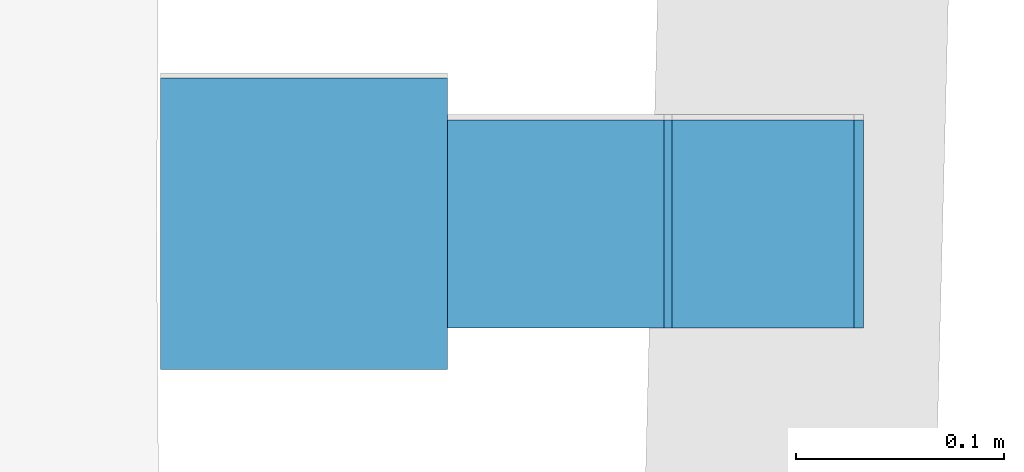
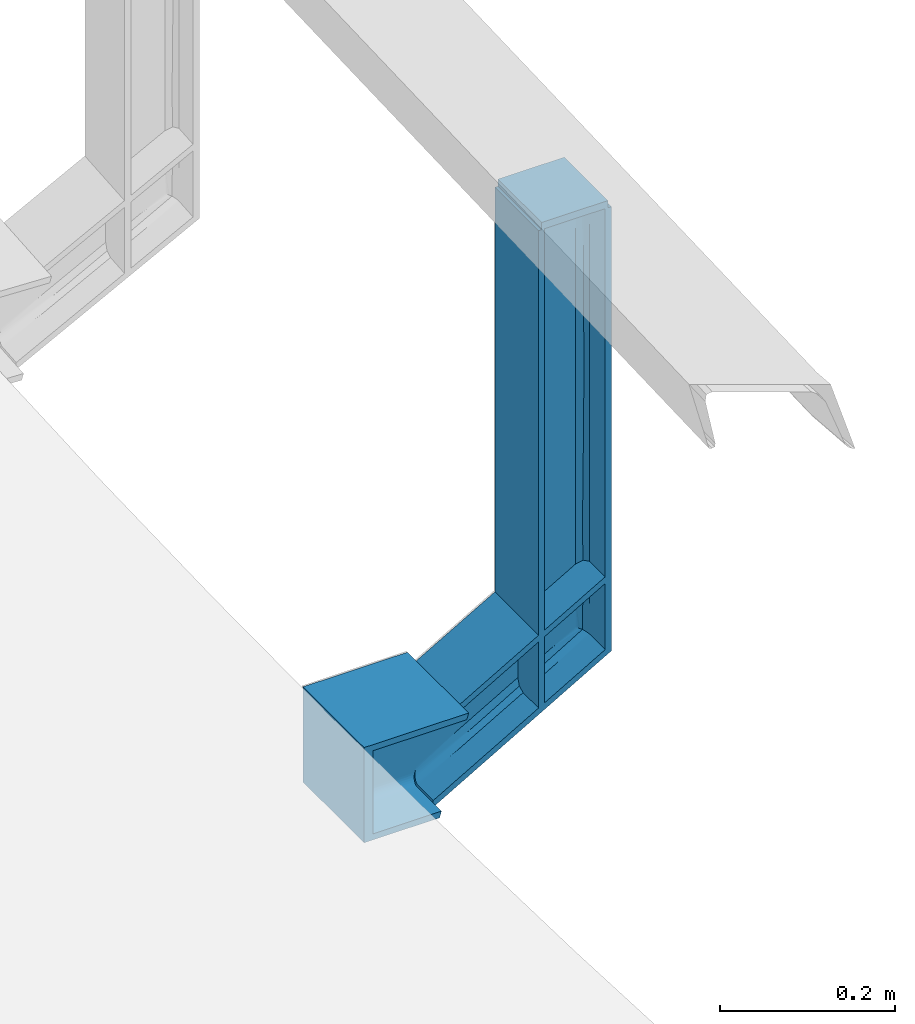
# One storey, part 40 of 68: 1 beam.
"""IFC2X3 building model written with IfcOpenShell, lengths in millimetres."""

from ifc_helpers import new_model, entity, si_unit, converted_unit, derived_unit, direction, frame, origin, place, context, subcontext, project, spatial, faceted_brep, source, transform, mapped, material, type_object, type_shapes, element, save


model = new_model("IFC2X3")

# Units and contexts
model_context = context("Model", 3, precision=0.01, world=origin(), true_north=direction((6.12303176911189e-17, 1.0)))
body_context = subcontext(model_context, "Body", "Model", "MODEL_VIEW")
ifc_project = project(units=[si_unit("LENGTHUNIT", "METRE", prefix="MILLI"), si_unit("AREAUNIT", "SQUARE_METRE", prefix="MILLI"), si_unit("VOLUMEUNIT", "CUBIC_METRE"), converted_unit("PLANEANGLEUNIT", "DEGREE", entity("IfcRatioMeasure", 0.0174532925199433), si_unit("PLANEANGLEUNIT", "RADIAN"), dimensions=[0, 0, 0, 0, 0, 0, 0]), si_unit("MASSUNIT", "GRAM", prefix="KILO"), derived_unit("MASSDENSITYUNIT", [(si_unit("MASSUNIT", "GRAM", prefix="KILO"), 1), (si_unit("LENGTHUNIT", "METRE"), -3)]), derived_unit("MOMENTOFINERTIAUNIT", [(si_unit("LENGTHUNIT", "METRE"), 4)]), si_unit("TIMEUNIT", "SECOND"), si_unit("FREQUENCYUNIT", "HERTZ"), si_unit("THERMODYNAMICTEMPERATUREUNIT", "DEGREE_CELSIUS"), derived_unit("THERMALTRANSMITTANCEUNIT", [(si_unit("MASSUNIT", "GRAM", prefix="KILO"), 1), (si_unit("THERMODYNAMICTEMPERATUREUNIT", "KELVIN"), -1), (si_unit("TIMEUNIT", "SECOND"), -3)]), derived_unit("VOLUMETRICFLOWRATEUNIT", [(si_unit("LENGTHUNIT", "METRE"), 3), (si_unit("TIMEUNIT", "SECOND"), -1)]), si_unit("ELECTRICCURRENTUNIT", "AMPERE"), si_unit("ELECTRICVOLTAGEUNIT", "VOLT"), si_unit("POWERUNIT", "WATT"), si_unit("FORCEUNIT", "NEWTON", prefix="KILO"), si_unit("ILLUMINANCEUNIT", "LUX"), si_unit("LUMINOUSFLUXUNIT", "LUMEN"), si_unit("LUMINOUSINTENSITYUNIT", "CANDELA"), derived_unit("USERDEFINED", [(si_unit("MASSUNIT", "GRAM", prefix="KILO"), -1), (si_unit("LENGTHUNIT", "METRE"), -2), (si_unit("TIMEUNIT", "SECOND"), 3), (si_unit("LUMINOUSFLUXUNIT", "LUMEN"), 1)]), derived_unit("LINEARVELOCITYUNIT", [(si_unit("LENGTHUNIT", "METRE"), 1), (si_unit("TIMEUNIT", "SECOND"), -1)]), si_unit("PRESSUREUNIT", "PASCAL"), derived_unit("USERDEFINED", [(si_unit("LENGTHUNIT", "METRE"), -2), (si_unit("MASSUNIT", "GRAM", prefix="KILO"), 1), (si_unit("TIMEUNIT", "SECOND"), -2)]), derived_unit("LINEARFORCEUNIT", [(si_unit("MASSUNIT", "GRAM", prefix="KILO"), 1), (si_unit("LENGTHUNIT", "METRE"), 1), (si_unit("TIMEUNIT", "SECOND"), -2), (si_unit("LENGTHUNIT", "METRE"), -1)]), derived_unit("PLANARFORCEUNIT", [(si_unit("MASSUNIT", "GRAM", prefix="KILO"), 1), (si_unit("LENGTHUNIT", "METRE"), 1), (si_unit("TIMEUNIT", "SECOND"), -2), (si_unit("LENGTHUNIT", "METRE"), -2)])], contexts=[model_context])

# Site, building, storey
site_placement = place(None, origin())
site = spatial("IfcSite", under=ifc_project, at=site_placement, Name="Theater aan de Parade", CompositionType="ELEMENT")
building_placement = place(site_placement, origin())
building = spatial("IfcBuilding", under=site, at=building_placement, Name="Theater aan de Parade", CompositionType="ELEMENT")
storey_placement = place(building_placement, frame((0.0, 0.0, 8750.0)))
storey = spatial("IfcBuildingStorey", under=building, at=storey_placement, Name="02 tweede verdieping", CompositionType="ELEMENT", Elevation=8750.0)

# Beam
ifc_material = material(Name="00_PBT_MAT_staal_S355")
beam_type = type_object("IfcBeamType", Name="28_PBT_SF_staal_baluster balkon:baluster HEA100", PredefinedType="BEAM", material=ifc_material)
shared_shape = source(origin(), body_context, "Body", "Brep", [
    faceted_brep([(50.0, -43.537813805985, 625.0), (50.0, 44.0, 625.0), (50.0, 44.0, 635.0), (50.0, -43.537813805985, 635.0), (-50.0, -43.537813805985, 625.0), (-50.0, -43.537813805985, 635.0), (-50.0, 44.0, 635.0), (-50.0, 44.0, 625.0)], [[[0, 1, 2, 3]], [[4, 5, 6, 7]], [[1, 0, 4, 7]], [[2, 1, 7, 6]], [[3, 2, 6, 5]], [[0, 3, 5, 4]]]),
    faceted_brep([(70.0, 278.0, -133.0), (70.0, 290.0, -133.0), (70.0, 290.0, 0.0), (70.0, 278.0, 0.0), (-70.0, 278.0, -133.0), (-70.0, 278.0, 0.0), (-70.0, 290.0, 0.0), (-70.0, 290.0, -133.0)], [[[0, 1, 2, 3]], [[4, 5, 6, 7]], [[1, 0, 4, 7]], [[2, 1, 7, 6]], [[3, 2, 6, 5]], [[0, 3, 5, 4]]]),
    faceted_brep([(14.7499999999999, 278.0, -124.5), (70.0, 278.0, -124.5), (70.0, 278.0, -133.0), (-70.0, 278.0, -133.0), (-70.0, 278.0, -124.500000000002), (-14.7500000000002, 278.0, -124.500000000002), (-11.6441714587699, 278.0, -124.091109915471), (-8.75000000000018, 278.0, -122.892304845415), (-6.26471862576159, 278.0, -120.98528137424), (-4.3576951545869, 278.0, -118.500000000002), (-3.15889008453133, 278.0, -115.605828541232), (-2.75000000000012, 278.0, -112.500000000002), (-2.75000000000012, 278.0, -20.500000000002), (-3.15889008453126, 278.0, -17.3941714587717), (-4.35769515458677, 278.0, -14.500000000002), (-6.26471862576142, 278.0, -12.0147186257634), (-8.74999999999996, 278.0, -10.1076951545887), (-11.6441714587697, 278.0, -8.90889008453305), (-14.7500000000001, 278.0, -8.50000000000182), (-70.0, 278.0, -8.50000000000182), (-70.0, 278.0, 0.0), (70.0, 278.0, 0.0), (70.0, 278.0, -8.50000000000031), (14.7499999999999, 278.0, -8.50000000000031), (11.6441714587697, 278.0, -8.90889008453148), (8.74999999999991, 278.0, -10.107695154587), (6.26471862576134, 278.0, -12.0147186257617), (4.35769515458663, 278.0, -14.5000000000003), (3.15889008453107, 278.0, -17.39417145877), (2.74999999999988, 278.0, -20.5000000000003), (2.74999999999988, 278.0, -112.5), (3.15889008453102, 278.0, -115.60582854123), (4.35769515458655, 278.0, -118.5), (6.26471862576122, 278.0, -120.985281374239), (8.74999999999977, 278.0, -122.892304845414), (11.6441714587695, 278.0, -124.091109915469), (70.0, 151.923048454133, 0.0), (70.0, 154.37480362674, -8.50000000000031), (70.0, 187.834050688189, -124.5), (70.0, 190.285805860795, -133.0), (14.7499999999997, 154.37480362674, -8.50000000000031), (14.7499999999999, 214.85290376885, -8.50000000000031), (-14.7500000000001, 214.852897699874, -8.50000000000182), (-14.7500000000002, 154.37480362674, -8.50000000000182), (-70.0, 154.37480362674, -8.50000000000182), (6.43965673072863, 216.327371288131, -11.8433150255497), (2.74999999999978, 217.521900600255, -20.5000000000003), (12.079748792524, 154.461585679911, -8.8008650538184), (9.5433951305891, 154.717580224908, -9.68837358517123), (7.26812237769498, 155.129950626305, -11.1180222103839), (5.36802221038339, 155.678018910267, -13.0181223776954), (3.05086505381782, 157.065893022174, -17.8297487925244), (2.74999999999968, 157.83610504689, -20.5000000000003), (3.9383735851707, 156.334302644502, -15.2933951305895), (2.74999999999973, 184.372749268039, -112.5), (3.93837358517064, 185.874551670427, -117.706604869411), (3.05086505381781, 185.142961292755, -115.170251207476), (5.36802221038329, 186.530835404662, -119.981877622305), (7.26812237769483, 187.078903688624, -121.881977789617), (9.54339513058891, 187.491274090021, -123.311626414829), (12.0797487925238, 187.747268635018, -124.199134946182), (14.7499999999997, 187.834050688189, -124.5), (-70.0, 187.83405068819, -124.500000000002), (-14.7500000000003, 187.83405068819, -124.500000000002), (-70.0, 190.285805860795, -133.0), (-70.0, 151.923048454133, 0.0), (-9.54339513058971, 187.491274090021, -123.311626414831), (-12.0797487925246, 187.747268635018, -124.199134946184), (-7.2681223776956, 187.078903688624, -121.881977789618), (-5.36802221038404, 186.530835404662, -119.981877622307), (-3.93837358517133, 185.874551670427, -117.706604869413), (-3.05086505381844, 185.142961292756, -115.170251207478), (-2.75000000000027, 184.37274926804, -112.500000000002), (-2.75000000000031, 157.83610504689, -20.500000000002), (-2.75000000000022, 217.521907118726, -20.5000000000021), (-6.43965718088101, 216.327373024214, -11.8433145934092), (-3.05086505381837, 157.065893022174, -17.8297487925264), (-3.93837358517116, 156.334302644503, -15.2933951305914), (-5.36802221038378, 155.678018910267, -13.0181223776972), (-7.2681223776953, 155.129950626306, -11.1180222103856), (-9.54339513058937, 154.717580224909, -9.68837358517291), (-12.0797487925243, 154.461585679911, -8.80086505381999)], [[[0, 1, 2, 3, 4, 5, 6, 7, 8, 9, 10, 11, 12, 13, 14, 15, 16, 17, 18, 19, 20, 21, 22, 23, 24, 25, 26, 27, 28, 29, 30, 31, 32, 33, 34, 35]], [[22, 21, 36, 37]], [[2, 1, 38, 39]], [[23, 22, 37, 40, 41]], [[19, 18, 42, 43, 44]], [[24, 45, 25]], [[25, 45, 26]], [[27, 45, 46]], [[41, 40, 47]], [[23, 41, 24]], [[27, 26, 45]], [[41, 47, 48]], [[45, 49, 50]], [[46, 29, 28]], [[48, 45, 41]], [[46, 28, 27]], [[51, 52, 46]], [[51, 46, 53]], [[45, 53, 46]], [[50, 53, 45]], [[48, 49, 45]], [[41, 45, 24]], [[30, 29, 46, 52, 54]], [[55, 32, 31]], [[56, 31, 30]], [[30, 54, 56]], [[32, 55, 57]], [[55, 31, 56]], [[57, 33, 32]], [[34, 33, 58]], [[35, 34, 59]], [[0, 35, 60]], [[34, 58, 59]], [[0, 60, 61]], [[60, 35, 59]], [[57, 58, 33]], [[1, 0, 61, 38]], [[5, 4, 62, 63]], [[3, 2, 39, 64]], [[4, 3, 64, 62]], [[20, 19, 44, 65]], [[66, 7, 6]], [[67, 6, 5]], [[5, 63, 67]], [[7, 66, 68]], [[66, 6, 67]], [[68, 8, 7]], [[9, 8, 69]], [[10, 9, 70]], [[11, 10, 71]], [[9, 69, 70]], [[11, 71, 72]], [[71, 10, 70]], [[68, 69, 8]], [[12, 11, 72, 73, 74]], [[74, 14, 13]], [[75, 15, 14]], [[17, 16, 75]], [[74, 73, 76]], [[16, 15, 75]], [[76, 77, 74]], [[75, 78, 79]], [[80, 81, 42]], [[77, 75, 74]], [[12, 74, 13]], [[75, 42, 17]], [[42, 18, 17]], [[42, 81, 43]], [[75, 80, 42]], [[80, 75, 79]], [[77, 78, 75]], [[75, 14, 74]], [[21, 20, 65, 36]], [[61, 60, 59, 58, 57, 55, 56, 54, 52, 51, 53, 50, 49, 48, 47, 40, 37, 36, 65, 44, 43, 81, 80, 79, 78, 77, 76, 73, 72, 71, 70, 69, 68, 66, 67, 63, 62, 64, 39, 38]]]),
    faceted_brep([(50.0, 155.119944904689, -11.0833333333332), (50.0, 151.923048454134, 0.0), (50.0, -48.0, 115.425625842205), (50.0, -48.0, 106.188021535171), (50.0, 190.285805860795, -133.0), (50.0, 187.08890941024, -121.916666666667), (50.0, -48.0, 13.8119784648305), (50.0, -48.0, 4.57437415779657), (14.4999999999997, 155.119944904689, -11.0833333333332), (14.4999999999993, -48.0, 106.188021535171), (14.4999999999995, 4.37555520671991, 75.9489806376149), (14.4999999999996, 56.7511250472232, 45.7099312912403), (-50.0, 155.119944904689, -11.0833333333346), (-14.5000000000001, 155.119944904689, -11.0833333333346), (-14.5000000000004, 56.7511361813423, 45.7099248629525), (-14.5000000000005, 4.37556274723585, 75.9489762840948), (-14.5000000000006, -48.0, 106.188021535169), (-50.0, -48.0, 106.188021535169), (12.1589161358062, 155.212086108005, -11.4027780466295), (6.13940978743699, 85.6560198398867, 25.105130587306), (9.9077988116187, 155.484968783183, -12.348836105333), (2.80086505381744, -48.0, 95.4149555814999), (2.49999999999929, -48.0, 92.3316150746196), (2.49999999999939, 4.37556701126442, 62.092567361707), (2.49999999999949, 55.164155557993, 32.7697620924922), (6.04197655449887, 10.2229142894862, 68.5459327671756), (2.49999999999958, 107.539722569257, 2.53071437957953), (2.49999999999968, 159.915289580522, -27.7083333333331), (2.73057663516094, 158.979764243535, -24.4649567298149), (7.83315720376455, 155.92810620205, -13.8851510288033), (11.8297487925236, -48.0, 105.840612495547), (3.41344560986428, 158.0801906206, -21.3462212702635), (4.52236465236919, 157.25113882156, -18.4719782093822), (7.01812237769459, -48.0, 103.164989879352), (5.11802221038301, -48.0, 100.970943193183), (3.68837358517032, -48.0, 98.3436845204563), (9.29339513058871, -48.0, 104.815805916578), (6.01471862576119, 156.524468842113, -15.9526830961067), (2.49999999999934, -48.0, 27.6683849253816), (2.49999999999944, 4.37556959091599, -2.57066427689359), (2.49999999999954, 56.7511354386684, -32.8097113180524), (2.49999999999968, 129.917998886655, -75.052619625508), (2.49999999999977, 182.293564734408, -105.291666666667), (4.52236465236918, 184.957715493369, -114.528021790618), (6.30956465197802, 103.743785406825, -70.0679088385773), (6.01471862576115, 185.684385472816, -117.047316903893), (14.4999999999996, 134.713341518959, -91.6776184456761), (9.90779881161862, 186.723885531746, -120.651163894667), (7.83315720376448, 186.280748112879, -119.114848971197), (12.1589161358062, 186.996768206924, -121.597221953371), (14.4999999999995, 69.5444547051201, -54.0523441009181), (5.87838992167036, 26.3899882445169, -24.9186641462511), (14.4999999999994, 4.3755678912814, -16.4270697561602), (5.11802221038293, -48.0, 19.0290568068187), (3.4134456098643, 184.128663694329, -111.653778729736), (2.80086505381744, -48.0, 24.5850444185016), (3.68837358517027, -48.0, 21.6563154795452), (14.4999999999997, 187.08890941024, -121.916666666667), (7.01812237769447, -48.0, 16.8350101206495), (9.29339513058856, -48.0, 15.1841940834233), (2.73057663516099, 183.229090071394, -108.535043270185), (14.4999999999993, -48.0, 13.8119784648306), (11.8297487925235, -48.0, 14.1593875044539), (-50.0, 187.088909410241, -121.916666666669), (-50.0, -48.0, 13.8119784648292), (-14.5000000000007, -48.0, 13.8119784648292), (-14.5000000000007, 4.37556899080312, -16.4270703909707), (-14.5000000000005, 69.5444561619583, -54.0523449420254), (-14.5000000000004, 134.713343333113, -91.6776194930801), (-14.5000000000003, 187.088909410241, -121.916666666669), (-50.0, 190.285805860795, -133.0), (-50.0, -48.0, 4.57437415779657), (-50.0, 151.923048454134, 0.0), (-50.0, -48.0, 115.425625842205), (-6.30956482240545, 103.743788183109, -70.0679106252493), (-3.41344560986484, 184.128663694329, -111.653778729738), (-4.52236465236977, 184.95771549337, -114.52802179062), (-2.50000000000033, 129.917999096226, -75.0526197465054), (-9.29339513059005, -48.0, 15.1841940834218), (-7.01812237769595, -48.0, 16.835010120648), (-5.87838988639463, 26.389986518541, -24.9186631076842), (-7.8331572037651, 186.28074811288, -119.114848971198), (-6.01471862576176, 185.684385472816, -117.047316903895), (-11.829748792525, -48.0, 14.1593875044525), (-5.11802221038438, -48.0, 19.0290568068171), (-2.50000000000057, 4.37557526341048, -2.57066755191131), (-2.50000000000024, 182.293564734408, -105.291666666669), (-2.7305766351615, 183.229090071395, -108.535043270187), (-9.90779881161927, 186.723885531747, -120.651163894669), (-12.1589161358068, 186.996768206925, -121.597221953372), (-2.80086505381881, -48.0, 24.5850444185), (-2.50000000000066, -48.0, 27.6683849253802), (-2.50000000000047, 56.7511409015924, -32.8097144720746), (-3.68837358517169, -48.0, 21.6563154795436), (-2.50000000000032, 159.915289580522, -27.708333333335), (-2.50000000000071, -48.0, 92.3316150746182), (-2.50000000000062, 4.37556371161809, 62.0925692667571), (-2.50000000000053, 55.1641543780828, 32.7697627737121), (-2.50000000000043, 107.539718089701, 2.53071696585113), (-2.73057663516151, 158.979764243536, -24.464956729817), (-11.8297487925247, -48.0, 105.840612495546), (-6.01471862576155, 156.524468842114, -15.9526830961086), (-6.13940988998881, 85.6560228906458, 25.1051289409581), (-7.83315720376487, 155.92810620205, -13.885151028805), (-5.11802221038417, -48.0, 100.970943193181), (-7.0181223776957, -48.0, 103.16498987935), (-6.04197656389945, 10.2229155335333, 68.5459320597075), (-9.90779881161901, 155.484968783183, -12.3488361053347), (-4.52236465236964, 157.25113882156, -18.4719782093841), (-2.80086505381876, -48.0, 95.4149555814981), (-3.68837358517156, -48.0, 98.3436845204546), (-12.1589161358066, 155.212086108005, -11.402778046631), (-3.41344560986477, 158.080190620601, -21.3462212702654), (-9.29339513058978, -48.0, 104.815805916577)], [[[0, 1, 2, 3]], [[4, 5, 6, 7]], [[8, 0, 3, 9, 10, 11]], [[12, 13, 14, 15, 16, 17]], [[18, 19, 20]], [[21, 22, 23]], [[23, 24, 25]], [[26, 27, 28]], [[29, 20, 19]], [[26, 19, 24]], [[10, 25, 11]], [[8, 11, 18]], [[18, 11, 19]], [[11, 25, 19]], [[19, 25, 24]], [[10, 9, 30]], [[31, 32, 26]], [[33, 34, 25]], [[35, 25, 34]], [[23, 25, 35]], [[33, 25, 36]], [[28, 31, 26]], [[37, 19, 32]], [[36, 10, 30]], [[19, 26, 32]], [[21, 23, 35]], [[25, 10, 36]], [[29, 19, 37]], [[27, 26, 24, 23, 22, 38, 39, 40, 41, 42]], [[43, 44, 45]], [[46, 47, 48]], [[49, 47, 46]], [[50, 51, 52]], [[51, 39, 53]], [[44, 43, 54]], [[39, 38, 55]], [[56, 39, 55]], [[46, 57, 49]], [[44, 41, 40]], [[51, 53, 58]], [[44, 48, 45]], [[58, 59, 51]], [[44, 54, 41]], [[60, 41, 54]], [[51, 44, 40]], [[61, 52, 62]], [[51, 40, 39]], [[50, 46, 44]], [[46, 48, 44]], [[53, 39, 56]], [[60, 42, 41]], [[62, 52, 59]], [[50, 44, 51]], [[59, 52, 51]], [[5, 57, 46, 50, 52, 61, 6]], [[63, 64, 65, 66, 67, 68, 69]], [[70, 4, 7, 71]], [[63, 70, 71, 64]], [[72, 12, 17, 73]], [[74, 68, 67]], [[74, 75, 76]], [[75, 74, 77]], [[78, 79, 80]], [[81, 74, 82]], [[78, 66, 83]], [[84, 85, 80]], [[77, 86, 87]], [[68, 81, 88]], [[89, 68, 88]], [[90, 91, 85]], [[80, 74, 67]], [[66, 78, 80]], [[74, 80, 92]], [[66, 65, 83]], [[92, 80, 85]], [[90, 85, 93]], [[85, 84, 93]], [[81, 68, 74]], [[79, 84, 80]], [[68, 89, 69]], [[76, 82, 74]], [[92, 77, 74]], [[75, 77, 87]], [[66, 80, 67]], [[94, 86, 77, 92, 85, 91, 95, 96, 97, 98]], [[98, 99, 94]], [[100, 16, 15]], [[101, 102, 103]], [[104, 105, 106]], [[103, 102, 107]], [[108, 102, 101]], [[102, 106, 14]], [[102, 97, 106]], [[108, 98, 102]], [[96, 109, 110]], [[102, 111, 107]], [[96, 106, 97]], [[104, 106, 110]], [[99, 98, 112]], [[106, 15, 14]], [[108, 112, 98]], [[100, 15, 113]], [[111, 102, 14]], [[110, 106, 96]], [[98, 97, 102]], [[15, 106, 113]], [[14, 13, 111]], [[113, 106, 105]], [[96, 95, 109]], [[1, 72, 73, 2]], [[61, 62, 59, 58, 53, 56, 55, 38, 22, 21, 35, 34, 33, 36, 30, 9, 3, 2, 73, 17, 16, 100, 113, 105, 104, 110, 109, 95, 91, 90, 93, 84, 79, 78, 83, 65, 64, 71, 7, 6]], [[8, 18, 20, 29, 37, 32, 31, 28, 27, 42, 60, 54, 43, 45, 48, 47, 49, 57, 5, 4, 70, 63, 69, 89, 88, 81, 82, 76, 75, 87, 86, 94, 99, 112, 108, 101, 103, 107, 111, 13, 12, 72, 1, 0]]]),
    faceted_brep([(14.4999999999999, 40.0, 625.0), (50.0, 40.0, 625.0), (50.0, 48.0, 625.0), (-50.0, 48.0, 625.0), (-50.0, 40.0, 625.0), (-14.5000000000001, 40.0, 625.0), (-11.3941714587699, 39.5911099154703, 625.0), (-8.50000000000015, 38.3923048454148, 625.0), (-6.01471862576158, 36.4852813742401, 625.0), (-4.10769515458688, 34.0, 625.0), (-2.90889008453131, 31.1058285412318, 625.0), (-2.50000000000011, 28.0, 625.0), (-2.50000000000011, -28.0, 625.0), (-2.90889008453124, -31.1058285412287, 625.0), (-4.10769515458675, -34.0, 625.0), (-6.01471862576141, -36.4852813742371, 625.0), (-8.49999999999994, -38.3923048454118, 625.0), (-11.3941714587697, -39.5911099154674, 625.0), (-14.5000000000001, -40.0, 625.0), (-50.0, -40.0, 625.0), (-50.0, -48.0, 625.0), (50.0, -48.0, 625.0), (50.0, -40.0, 625.0), (14.4999999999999, -40.0, 625.0), (11.3941714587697, -39.5911099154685, 625.0), (8.49999999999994, -38.392304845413, 625.0), (6.01471862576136, -36.4852813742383, 625.0), (4.10769515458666, -34.0, 625.0), (2.90889008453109, -31.10582854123, 625.0), (2.49999999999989, -28.0, 625.0), (2.49999999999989, 28.0, 625.0), (2.90889008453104, 31.1058285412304, 625.0), (4.10769515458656, 34.0, 625.0), (6.01471862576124, 36.4852813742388, 625.0), (8.4999999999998, 38.3923048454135, 625.0), (11.3941714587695, 39.5911099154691, 625.0), (50.0, -48.0, 165.0), (50.0, -48.0, 4.57437415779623), (50.0, -40.0, -0.0444279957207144), (50.0, 40.0, -46.2324495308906), (50.0, 48.0, -50.8512516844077), (14.4999999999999, -40.0, -0.0444279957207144), (14.4999999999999, -40.0, 60.433662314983), (14.4999999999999, -40.0, 156.216673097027), (14.4999999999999, -40.0, 234.347235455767), (14.4999999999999, -40.0, 312.477797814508), (14.4999999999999, -40.0, 390.608336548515), (14.4999999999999, -40.0, 468.738898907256), (14.4999999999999, -40.0, 564.521909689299), (-14.4999999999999, -40.0, 564.521898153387), (-14.4999999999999, -40.0, 468.738893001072), (-14.4999999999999, -40.0, 390.608339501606), (-14.4999999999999, -40.0, 312.477786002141), (-14.5, -40.0, 234.347232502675), (-14.5, -40.0, 156.21667900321), (-14.5, -40.0, 60.4336544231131), (-14.5, -40.0, -0.0444279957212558), (-50.0, -40.0, -0.0444279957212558), (6.01471822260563, -36.4852809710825, 534.282851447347), (6.38111782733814, -36.8365011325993, 422.595542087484), (2.49999999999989, -28.0, 429.969869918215), (2.49999999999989, -28.0, 504.043806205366), (7.01812237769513, -37.3819777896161, -1.55594382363), (5.87838991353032, -36.3467262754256, 83.7445110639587), (9.29339513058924, -38.8116264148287, -0.730535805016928), (2.49999999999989, -28.0, 564.521903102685), (5.11802221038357, -35.4818776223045, -2.65296716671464), (11.8297487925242, -39.6991349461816, -0.21813251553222), (5.33717277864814, -35.7487158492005, 157.721305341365), (6.03175640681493, -36.5022850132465, 273.412504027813), (2.49999999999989, -28.0, 113.983554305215), (2.80086505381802, -30.6702512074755, -5.43096097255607), (2.49999999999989, -28.0, -6.97263122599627), (2.49999999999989, -28.0, 53.5054574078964), (6.45584074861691, -36.9045775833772, 351.543056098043), (3.68837358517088, -33.2066048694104, -3.96659650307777), (2.49999999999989, -28.0, 174.461651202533), (2.49999999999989, -28.0, 234.939748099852), (2.49999999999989, -28.0, 332.454809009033), (2.49999999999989, 28.0, -39.3042463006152), (2.49999999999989, 28.0, 21.173847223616), (2.49999999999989, 28.0, 81.6519407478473), (2.49999999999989, 28.0, 171.891681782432), (2.49999999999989, 28.0, 277.489637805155), (2.49999999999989, 28.0, 383.087609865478), (2.49999999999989, 28.0, 443.56570338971), (2.49999999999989, 28.0, 504.043796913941), (2.49999999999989, 28.0, 564.521906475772), (14.4999999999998, 40.0, 564.521898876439), (6.01471890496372, 36.4852816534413, 534.282850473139), (14.4999999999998, 40.0, 457.191892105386), (14.4999999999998, 40.0, 74.7237437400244), (5.87838987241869, 36.3467262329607, 51.4128968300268), (14.4999999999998, 40.0, 14.245651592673), (7.12980766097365, 37.4699664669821, 128.3887480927), (14.4999999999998, 40.0, 182.05375948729), (5.68142979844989, 36.138354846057, 331.335798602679), (14.4999999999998, 40.0, 289.383775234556), (14.4999999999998, 40.0, 373.287833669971), (6.48410362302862, 36.9300282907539, 264.631830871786), (3.68837358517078, 33.2066048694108, -42.3102810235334), (5.11802221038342, 35.481877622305, -43.6239103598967), (11.8297487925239, 39.6991349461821, -46.058745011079), (14.4999999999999, 40.0, -46.2324495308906), (9.29339513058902, 38.8116264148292, -45.5463417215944), (7.01812237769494, 37.3819777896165, -44.7209337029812), (5.85986411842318, 36.3275477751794, 197.731198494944), (5.34384824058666, 35.7566026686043, 460.437179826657), (2.80086505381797, 30.6702512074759, -40.8459165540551), (6.59968170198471, 37.0324399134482, 396.193688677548), (-50.0, 40.0, -46.2324495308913), (-14.5000000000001, 40.0, -46.2324495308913), (-14.5000000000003, 40.0, 14.245637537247), (-14.5000000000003, 40.0, 121.575655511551), (-14.5000000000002, 40.0, 205.479712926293), (-14.5000000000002, 40.0, 289.383770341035), (-14.5000000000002, 40.0, 373.287827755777), (-14.5000000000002, 40.0, 457.191885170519), (-14.5000000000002, 40.0, 564.521903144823), (-50.0, 48.0, -50.8512516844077), (-50.0, -48.0, 4.57437415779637), (-50.0, -48.0, 165.0), (-6.01471845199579, 36.4852812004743, 534.282853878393), (-5.34384807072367, 35.7566024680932, 460.437182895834), (-2.5000000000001, 28.0, 504.043796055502), (-2.5000000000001, 28.0, 564.521888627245), (-7.01812237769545, 37.3819777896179, -44.720933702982), (-9.29339513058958, 38.8116264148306, -45.5463417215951), (-5.68142973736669, 36.1383547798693, 331.33579885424), (-6.3722320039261, 36.8283286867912, 262.824412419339), (-2.5000000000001, 28.0, 383.087610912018), (-6.59968165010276, 37.0324398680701, 396.193689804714), (-11.8297487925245, 39.6991349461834, -46.0587450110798), (-6.18948395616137, 36.6565191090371, 51.4128959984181), (-5.11802221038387, 35.4818776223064, -43.6239103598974), (-3.68837358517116, 33.2066048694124, -42.3102810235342), (-2.80086505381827, 30.6702512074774, -40.8459165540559), (-2.5000000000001, 28.0, 21.1738462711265), (-2.5000000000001, 28.0, 81.6519388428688), (-5.3518166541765, 35.7659990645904, 125.002033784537), (-2.5000000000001, 28.0, -39.3042463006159), (-2.5000000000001, 28.0, 277.489637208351), (-2.5000000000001, 28.0, 443.56570348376), (-2.5000000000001, 28.0, 171.891682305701), (-5.88018165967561, 36.3485766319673, 194.135386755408), (-2.50000000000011, -28.0, -6.97263122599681), (-2.50000000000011, -28.0, 53.5054568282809), (-2.50000000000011, -28.0, 113.983561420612), (-2.50000000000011, -28.0, 174.461666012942), (-2.50000000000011, -28.0, 234.93975406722), (-2.50000000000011, -28.0, 332.454811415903), (-2.50000000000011, -28.0, 429.969885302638), (-2.50000000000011, -28.0, 504.043823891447), (-2.50000000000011, -28.0, 564.521911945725), (-9.29339513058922, -38.8116264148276, -0.730535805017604), (-5.8783899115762, -36.3467262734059, 83.7445122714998), (-5.33717271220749, -35.7487157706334, 157.721307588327), (-6.0147187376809, -36.4852814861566, 534.282853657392), (-6.45584072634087, -36.9045775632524, 351.543059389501), (-6.38111797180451, -36.8365012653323, 422.595548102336), (-2.80086505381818, -30.6702512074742, -5.43096097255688), (-3.688373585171, -33.2066048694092, -3.96659650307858), (-5.11802221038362, -35.4818776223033, -2.65296716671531), (-7.01812237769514, -37.3819777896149, -1.55594382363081), (-6.03175635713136, -36.5022849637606, 273.412506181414), (-11.8297487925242, -39.6991349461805, -0.218132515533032)], [[[0, 1, 2, 3, 4, 5, 6, 7, 8, 9, 10, 11, 12, 13, 14, 15, 16, 17, 18, 19, 20, 21, 22, 23, 24, 25, 26, 27, 28, 29, 30, 31, 32, 33, 34, 35]], [[22, 21, 36, 37, 38]], [[2, 1, 39, 40]], [[23, 22, 38, 41, 42, 43, 44, 45, 46, 47, 48]], [[19, 18, 49, 50, 51, 52, 53, 54, 55, 56, 57]], [[58, 26, 25]], [[26, 58, 27]], [[48, 47, 58]], [[59, 60, 61]], [[62, 63, 64]], [[28, 27, 65]], [[63, 62, 66]], [[42, 41, 67]], [[68, 69, 44]], [[63, 70, 68]], [[58, 61, 65]], [[42, 63, 43]], [[68, 43, 63]], [[64, 42, 67]], [[24, 23, 48]], [[71, 72, 73]], [[25, 48, 58]], [[69, 74, 45]], [[45, 74, 46]], [[65, 27, 58]], [[24, 48, 25]], [[71, 73, 75]], [[64, 63, 42]], [[70, 63, 73]], [[73, 66, 75]], [[58, 59, 61]], [[66, 73, 63]], [[65, 29, 28]], [[44, 69, 45]], [[76, 77, 68, 70]], [[44, 43, 68]], [[77, 78, 69]], [[78, 60, 74]], [[77, 69, 68]], [[59, 46, 74]], [[59, 74, 60]], [[78, 74, 69]], [[59, 47, 46]], [[47, 59, 58]], [[30, 29, 65, 61, 60, 78, 77, 76, 70, 73, 72, 79, 80, 81, 82, 83, 84, 85, 86, 87]], [[34, 88, 35]], [[89, 90, 88]], [[91, 92, 93]], [[33, 89, 34]], [[81, 80, 92]], [[94, 91, 95]], [[32, 89, 33]], [[96, 97, 98]], [[97, 96, 99]], [[100, 101, 92]], [[87, 86, 89]], [[31, 87, 32]], [[100, 92, 80]], [[102, 103, 93]], [[102, 93, 104]], [[32, 87, 89]], [[101, 105, 92]], [[93, 105, 104]], [[106, 95, 99]], [[88, 34, 89]], [[107, 89, 86]], [[88, 0, 35]], [[80, 108, 100]], [[80, 79, 108]], [[105, 93, 92]], [[31, 30, 87]], [[106, 94, 95]], [[94, 82, 81]], [[90, 89, 107]], [[92, 94, 81]], [[91, 94, 92]], [[82, 94, 106]], [[109, 98, 90]], [[107, 85, 109]], [[84, 109, 85]], [[109, 96, 98]], [[96, 84, 83]], [[106, 83, 82]], [[99, 96, 83]], [[97, 99, 95]], [[106, 99, 83]], [[96, 109, 84]], [[107, 86, 85]], [[107, 109, 90]], [[1, 0, 88, 90, 98, 97, 95, 91, 93, 103, 39]], [[5, 4, 110, 111, 112, 113, 114, 115, 116, 117, 118]], [[3, 2, 40, 119]], [[4, 3, 119, 110]], [[20, 19, 57, 120, 121]], [[8, 7, 122]], [[7, 118, 122]], [[123, 124, 122]], [[124, 125, 122]], [[126, 112, 127]], [[6, 5, 118]], [[6, 118, 7]], [[123, 122, 117]], [[128, 115, 129]], [[128, 130, 131]], [[112, 111, 132]], [[133, 126, 134]], [[8, 122, 9]], [[133, 113, 112]], [[133, 134, 135]], [[136, 137, 135]], [[118, 117, 122]], [[135, 137, 133]], [[138, 139, 133]], [[138, 133, 137]], [[122, 125, 9]], [[137, 136, 140]], [[127, 112, 132]], [[125, 11, 10]], [[112, 126, 133]], [[10, 9, 125]], [[113, 133, 139]], [[128, 141, 130]], [[142, 124, 123]], [[123, 117, 131]], [[115, 128, 116]], [[116, 128, 131]], [[139, 138, 143]], [[144, 114, 113]], [[113, 139, 144]], [[143, 144, 139]], [[144, 141, 129]], [[115, 114, 129]], [[144, 143, 141]], [[128, 129, 141]], [[144, 129, 114]], [[116, 131, 117]], [[130, 142, 131]], [[142, 123, 131]], [[11, 125, 124, 142, 130, 141, 143, 138, 137, 140, 145, 146, 147, 148, 149, 150, 151, 152, 153, 12]], [[49, 17, 16]], [[154, 55, 155]], [[156, 147, 155]], [[157, 153, 152]], [[14, 157, 15]], [[157, 16, 15]], [[158, 51, 159]], [[157, 50, 49]], [[160, 161, 146]], [[156, 155, 54]], [[49, 18, 17]], [[13, 153, 14]], [[12, 153, 13]], [[155, 162, 163]], [[151, 158, 159]], [[14, 153, 157]], [[146, 145, 160]], [[163, 154, 155]], [[155, 147, 146]], [[146, 162, 155]], [[164, 158, 150]], [[165, 56, 55]], [[54, 155, 55]], [[49, 16, 157]], [[161, 162, 146]], [[165, 55, 154]], [[159, 50, 157]], [[152, 159, 157]], [[148, 147, 156, 149]], [[149, 156, 164]], [[53, 52, 164]], [[156, 54, 53]], [[53, 164, 156]], [[51, 158, 52]], [[149, 164, 150]], [[52, 158, 164]], [[150, 158, 151]], [[152, 151, 159]], [[159, 51, 50]], [[21, 20, 121, 120, 37, 36]], [[103, 102, 104, 105, 101, 100, 108, 79, 72, 71, 75, 66, 62, 64, 67, 41, 38, 37, 120, 57, 56, 165, 154, 163, 162, 161, 160, 145, 140, 136, 135, 134, 126, 127, 132, 111, 110, 119, 40, 39]]]),
])
type_shapes(beam_type, [shared_shape])
beam_placement = place(storey_placement, frame((53341.8764598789, 32448.7392282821, -2040.0), z_axis=(0.0, 0.0, 1.0), x_axis=(0.0, 1.0, 0.0)))
element("IfcBeam", 1, at=beam_placement, inside=storey, type_object=beam_type, material=ifc_material, Name="28_PBT_SF_staal_baluster balkon:baluster HEA100", ObjectType="28_PBT_SF_staal_baluster balkon:baluster HEA100", context=body_context, shape_type="MappedRepresentation", body=[
    mapped(shared_shape, transform((0.0, 0.0, 0.0), scale=1.0)),
])

save(model, "model.ifc")
